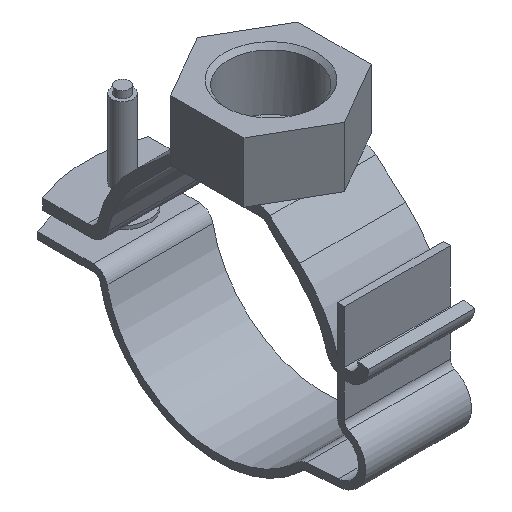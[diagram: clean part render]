
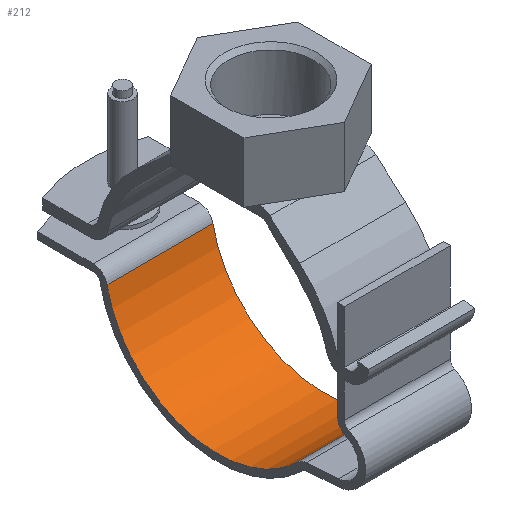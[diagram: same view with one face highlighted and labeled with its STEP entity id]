
A CAD part, isometric view. The second image highlights one B-rep face of the part: STEP entity #212.
In plain terms, the highlighted cylindrical face has radius 32 mm (diameter 64 mm), a partial arc.
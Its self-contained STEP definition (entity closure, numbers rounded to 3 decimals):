
#212 = ADVANCED_FACE( '', ( #443 ), #444, .F. );
#443 = FACE_OUTER_BOUND( '', #682, .T. );
#444 = CYLINDRICAL_SURFACE( '', #683, 32. );
#682 = EDGE_LOOP( '', ( #1281, #1282, #1283, #1284 ) );
#683 = AXIS2_PLACEMENT_3D( '', #1285, #1286, #1287 );
#1281 = ORIENTED_EDGE( '', *, *, #1587, .F. );
#1282 = ORIENTED_EDGE( '', *, *, #1591, .F. );
#1283 = ORIENTED_EDGE( '', *, *, #1501, .T. );
#1284 = ORIENTED_EDGE( '', *, *, #1636, .T. );
#1285 = CARTESIAN_POINT( '', ( 15., 0., 0. ) );
#1286 = DIRECTION( '', ( 1., 0., 0. ) );
#1287 = DIRECTION( '', ( 0., 0., 1. ) );
#1501 = EDGE_CURVE( '', #1838, #1836, #1839, .T. );
#1587 = EDGE_CURVE( '', #1967, #1969, #1970, .T. );
#1591 = EDGE_CURVE( '', #1838, #1967, #1974, .T. );
#1636 = EDGE_CURVE( '', #1836, #1969, #2024, .T. );
#1836 = VERTEX_POINT( '', #2283 );
#1838 = VERTEX_POINT( '', #2285 );
#1839 = CIRCLE( '', #2286, 32. );
#1967 = VERTEX_POINT( '', #2456 );
#1969 = VERTEX_POINT( '', #2458 );
#1970 = CIRCLE( '', #2459, 32. );
#1974 = LINE( '', #2464, #2465 );
#2024 = LINE( '', #2529, #2530 );
#2283 = CARTESIAN_POINT( '', ( 15., 31.389, -6.222 ) );
#2285 = CARTESIAN_POINT( '', ( 15., -22.459, -22.795 ) );
#2286 = AXIS2_PLACEMENT_3D( '', #2691, #2692, #2693 );
#2456 = CARTESIAN_POINT( '', ( -15., -22.459, -22.795 ) );
#2458 = CARTESIAN_POINT( '', ( -15., 31.389, -6.222 ) );
#2459 = AXIS2_PLACEMENT_3D( '', #2826, #2827, #2828 );
#2464 = CARTESIAN_POINT( '', ( 15., -22.459, -22.795 ) );
#2465 = VECTOR( '', #2833, 1000. );
#2529 = CARTESIAN_POINT( '', ( 15., 31.389, -6.222 ) );
#2530 = VECTOR( '', #2869, 1000. );
#2691 = CARTESIAN_POINT( '', ( 15., 0., 0. ) );
#2692 = DIRECTION( '', ( 1., 0., 0. ) );
#2693 = DIRECTION( '', ( 0., 0., -1. ) );
#2826 = CARTESIAN_POINT( '', ( -15., 0., 0. ) );
#2827 = DIRECTION( '', ( 1., 0., 0. ) );
#2828 = DIRECTION( '', ( 0., 0., -1. ) );
#2833 = DIRECTION( '', ( -1., 0., 0. ) );
#2869 = DIRECTION( '', ( -1., 0., 0. ) );
